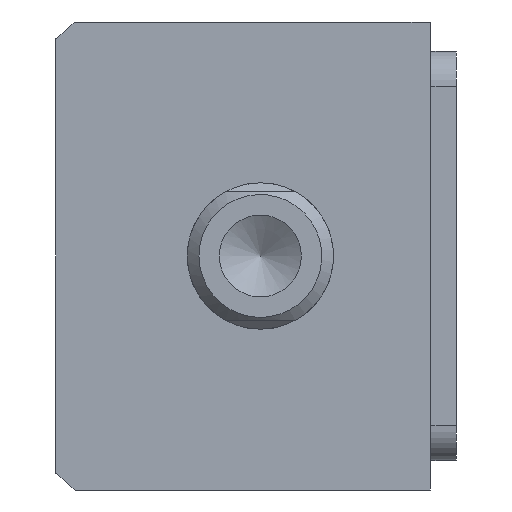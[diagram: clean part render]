
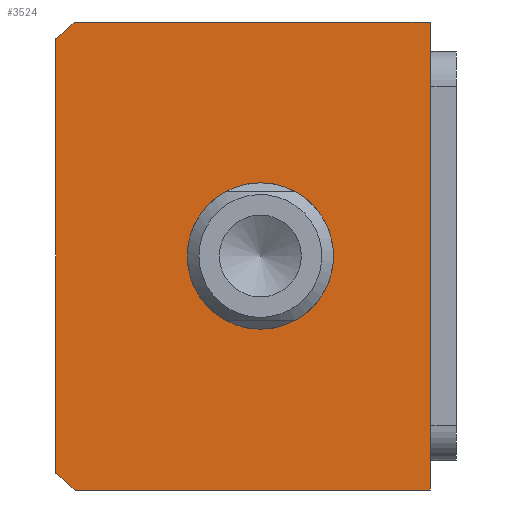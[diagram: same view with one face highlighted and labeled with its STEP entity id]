
A CAD part, front view. The second image highlights one B-rep face of the part: STEP entity #3524.
In plain terms, the highlighted planar face has unit normal (0, -1, 0).
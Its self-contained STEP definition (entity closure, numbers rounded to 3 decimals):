
#842=FACE_BOUND('',#4455,.T.);
#843=FACE_BOUND('',#4456,.T.);
#3189=PLANE('',#11604);
#3524=ADVANCED_FACE('',(#842,#843),#3189,.F.);
#4455=EDGE_LOOP('',(#7025));
#4456=EDGE_LOOP('',(#7026,#7027,#7028,#7029,#7030,#7031));
#4996=LINE('',#14022,#5911);
#5020=LINE('',#14248,#5935);
#5030=LINE('',#14269,#5945);
#5046=LINE('',#14312,#5961);
#5911=VECTOR('',#12060,1.);
#5935=VECTOR('',#12162,1.);
#5945=VECTOR('',#12174,1.);
#5961=VECTOR('',#12208,1.);
#7025=ORIENTED_EDGE('',*,*,#10263,.T.);
#7026=ORIENTED_EDGE('',*,*,#10315,.F.);
#7027=ORIENTED_EDGE('',*,*,#10283,.F.);
#7028=ORIENTED_EDGE('',*,*,#10316,.F.);
#7029=ORIENTED_EDGE('',*,*,#10232,.F.);
#7030=ORIENTED_EDGE('',*,*,#10317,.F.);
#7031=ORIENTED_EDGE('',*,*,#10293,.F.);
#9379=VERTEX_POINT('',#14020);
#9381=VERTEX_POINT('',#14023);
#9411=VERTEX_POINT('',#14202);
#9430=VERTEX_POINT('',#14247);
#9431=VERTEX_POINT('',#14249);
#9439=VERTEX_POINT('',#14267);
#9441=VERTEX_POINT('',#14270);
#10232=EDGE_CURVE('',#9379,#9381,#4996,.T.);
#10263=EDGE_CURVE('',#9411,#9411,#11462,.T.);
#10283=EDGE_CURVE('',#9430,#9431,#5020,.T.);
#10293=EDGE_CURVE('',#9439,#9441,#5030,.T.);
#10315=EDGE_CURVE('',#9431,#9439,#11481,.T.);
#10316=EDGE_CURVE('',#9381,#9430,#5046,.T.);
#10317=EDGE_CURVE('',#9441,#9379,#11482,.T.);
#11462=CIRCLE('',#11573,12.5);
#11481=CIRCLE('',#11602,51.);
#11482=CIRCLE('',#11603,51.);
#11573=AXIS2_PLACEMENT_3D('',#14201,#12115,#12116);
#11602=AXIS2_PLACEMENT_3D('',#14311,#12206,#12207);
#11603=AXIS2_PLACEMENT_3D('',#14313,#12209,#12210);
#11604=AXIS2_PLACEMENT_3D('',#14314,#12211,#12212);
#12060=DIRECTION('',(1.,0.,0.));
#12115=DIRECTION('',(0.,1.,0.));
#12116=DIRECTION('',(0.,0.,1.));
#12162=DIRECTION('',(-1.,0.,0.));
#12174=DIRECTION('',(0.,0.,1.));
#12206=DIRECTION('',(0.,1.,0.));
#12207=DIRECTION('',(0.,0.,1.));
#12208=DIRECTION('',(0.,0.,-1.));
#12209=DIRECTION('',(0.,1.,0.));
#12210=DIRECTION('',(0.,0.,1.));
#12211=DIRECTION('',(0.,1.,0.));
#12212=DIRECTION('',(0.,0.,-1.));
#14020=CARTESIAN_POINT('',(-30.912,-77.092,34.983));
#14022=CARTESIAN_POINT('',(29.726,-77.092,34.983));
#14023=CARTESIAN_POINT('',(29.726,-77.092,34.983));
#14201=CARTESIAN_POINT('',(0.726,-77.092,-5.017));
#14202=CARTESIAN_POINT('',(0.726,-77.092,7.483));
#14247=CARTESIAN_POINT('',(29.726,-77.092,-45.017));
#14248=CARTESIAN_POINT('',(29.726,-77.092,-45.017));
#14249=CARTESIAN_POINT('',(-30.912,-77.092,-45.017));
#14267=CARTESIAN_POINT('',(-34.274,-77.092,-42.112));
#14269=CARTESIAN_POINT('',(-34.274,-77.092,-45.017));
#14270=CARTESIAN_POINT('',(-34.274,-77.092,32.077));
#14311=CARTESIAN_POINT('',(0.726,-77.092,-5.017));
#14312=CARTESIAN_POINT('',(29.726,-77.092,-45.017));
#14313=CARTESIAN_POINT('',(0.726,-77.092,-5.017));
#14314=CARTESIAN_POINT('',(-2.274,-77.092,-5.017));
